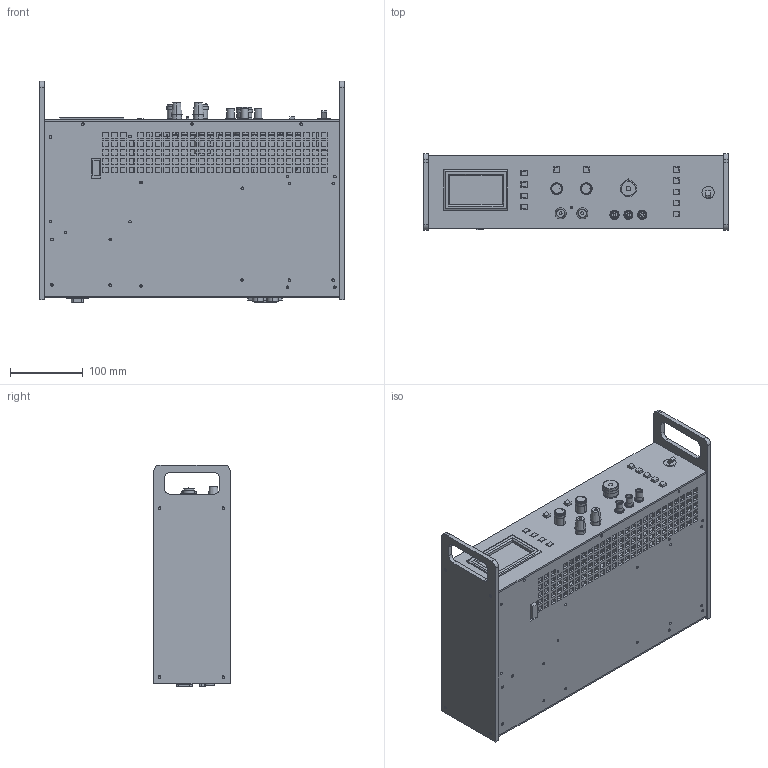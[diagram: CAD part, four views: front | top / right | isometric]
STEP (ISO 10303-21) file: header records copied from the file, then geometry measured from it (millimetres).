
FILE_DESCRIPTION(/* description */ ('VariCAD 2014-2.05 AP-214'),/* implementation_level */ '2;1');
FILE_NAME(/* name */ 'VQG9050V2.stp',/* time_stamp */ '2017-03-31T12:49:35+02:00',/* author */ (''),/* organization */ (''),/* preprocessor_version */ 'ST-DEVELOPER v14',/* originating_system */ 'VariCAD 2014-2.05; kernel version (20130303)',/* authorisation */ '');
FILE_SCHEMA (('AUTOMOTIVE_DESIGN'));
Products named in the file (39): VQG9050V2; Kühlgruppe; Klappchassis; Kühlblech; Kühlkörper; Abstandsbolzen M3x20; CPU
Assembly tree (38 placements, depth 2):
  VQG9050V2
    (unnamed)
    (unnamed)
    (unnamed)
    (unnamed)
    (unnamed)
    (unnamed)
    (unnamed)
    (unnamed)
    (unnamed)
    (unnamed)
    (unnamed)
    (unnamed)
    (unnamed)
    (unnamed)
    (unnamed)
    (unnamed)
    (unnamed)
    (unnamed)
    Kühlgruppe
    (unnamed)
    (unnamed)
    (unnamed)
    (unnamed)
    (unnamed)
    (unnamed)
    (unnamed)
    Klappchassis
    (unnamed)
    (unnamed)
    (unnamed)
    (unnamed)
    (unnamed)
    (unnamed)
    (unnamed)
    Kühlblech
    Kühlkörper
    Abstandsbolzen M3x20
    CPU
Bounding box: 418 x 105 x 304.3 mm (x, y, z)
Volume: 2937724.1 mm3; surface area: 1358213.5 mm2
Topology: 93 solids, 94 shells, 3551 faces, 9620 edges, 6478 vertices
Faces by surface type: plane 2642, cylinder 897, cone 10, torus 2
Entity records: 115745 total; most frequent: CARTESIAN_POINT 20158, ORIENTED_EDGE 19240, DIRECTION 18708, EDGE_CURVE 9620, LINE 7768, VECTOR 7768, VERTEX_POINT 6478, AXIS2_PLACEMENT_3D 5470
